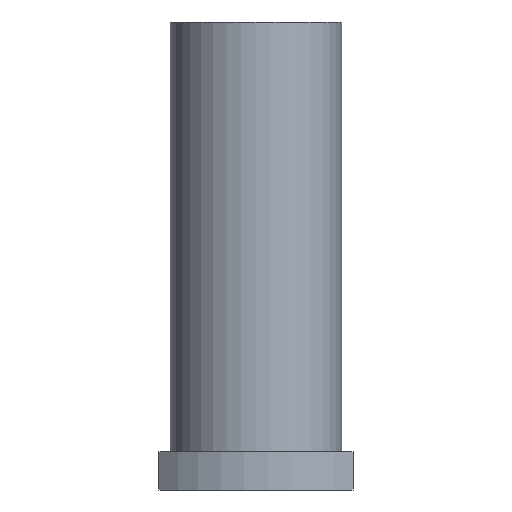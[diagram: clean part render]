
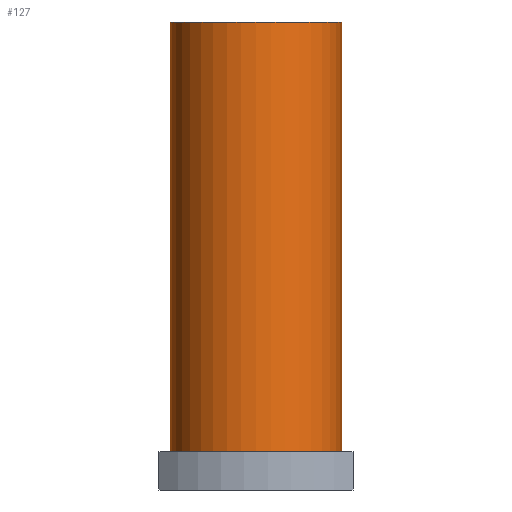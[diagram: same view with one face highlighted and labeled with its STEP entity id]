
A CAD part, front view. The second image highlights one B-rep face of the part: STEP entity #127.
In plain terms, the highlighted cylindrical face has radius 22.5 mm (diameter 45 mm), a partial arc.
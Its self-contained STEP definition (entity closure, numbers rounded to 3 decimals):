
#86=CARTESIAN_POINT('',(20.5,-21.58,0.0));
#87=DIRECTION('',(0.0,0.0,1.0));
#88=DIRECTION('',(-1.0,0.0,0.0));
#89=AXIS2_PLACEMENT_3D('',#86,#87,#88);
#90=CYLINDRICAL_SURFACE('',#89,22.5);
#91=CARTESIAN_POINT('',(-2.,-21.58,10.0));
#92=VERTEX_POINT('',#91);
#93=CARTESIAN_POINT('',(-2.,-21.58,123.0));
#94=VERTEX_POINT('',#93);
#95=CARTESIAN_POINT('',(-2.,-21.58,10.0));
#96=DIRECTION('',(0.0,0.0,1.0));
#97=VECTOR('',#96,113.0);
#98=LINE('',#95,#97);
#99=EDGE_CURVE('',#92,#94,#98,.T.);
#100=ORIENTED_EDGE('',*,*,#99,.F.);
#101=CARTESIAN_POINT('',(43.,-21.58,10.0));
#102=VERTEX_POINT('',#101);
#103=CARTESIAN_POINT('',(20.5,-21.58,10.0));
#104=DIRECTION('',(0.0,0.0,-1.0));
#105=DIRECTION('',(-1.0,0.0,0.0));
#106=AXIS2_PLACEMENT_3D('',#103,#104,#105);
#107=CIRCLE('',#106,22.5);
#108=EDGE_CURVE('',#102,#92,#107,.T.);
#109=ORIENTED_EDGE('',*,*,#108,.F.);
#110=CARTESIAN_POINT('',(43.,-21.58,123.0));
#111=VERTEX_POINT('',#110);
#112=CARTESIAN_POINT('',(43.,-21.58,123.0));
#113=DIRECTION('',(0.0,0.0,-1.0));
#114=VECTOR('',#113,113.0);
#115=LINE('',#112,#114);
#116=EDGE_CURVE('',#111,#102,#115,.T.);
#117=ORIENTED_EDGE('',*,*,#116,.F.);
#118=CARTESIAN_POINT('',(20.5,-21.58,123.0));
#119=DIRECTION('',(0.0,0.0,-1.0));
#120=DIRECTION('',(-1.0,0.0,0.0));
#121=AXIS2_PLACEMENT_3D('',#118,#119,#120);
#122=CIRCLE('',#121,22.5);
#123=EDGE_CURVE('',#111,#94,#122,.T.);
#124=ORIENTED_EDGE('',*,*,#123,.T.);
#125=EDGE_LOOP('',(#100,#109,#117,#124));
#126=FACE_OUTER_BOUND('',#125,.T.);
#127=ADVANCED_FACE('',(#126),#90,.T.);
